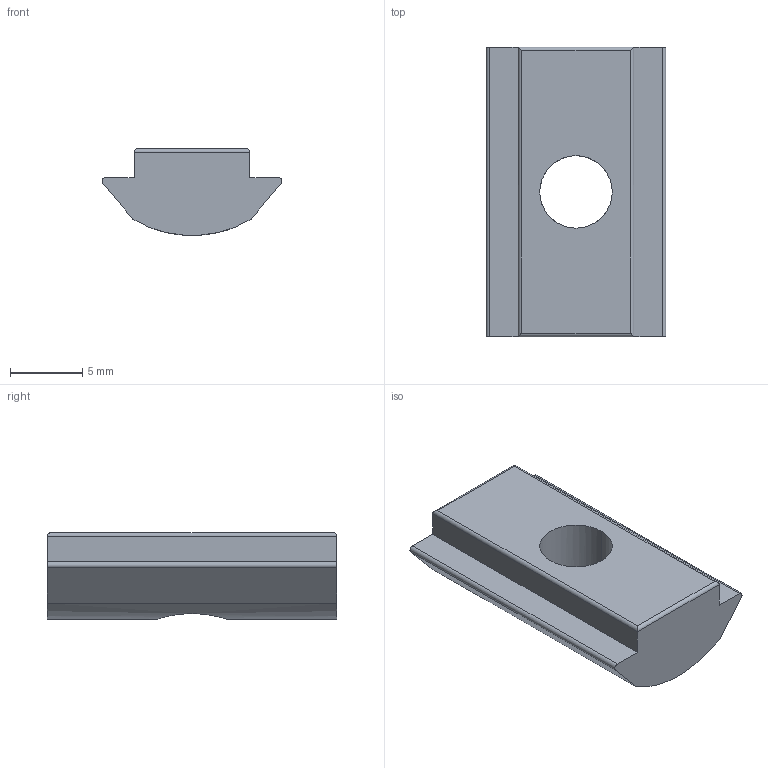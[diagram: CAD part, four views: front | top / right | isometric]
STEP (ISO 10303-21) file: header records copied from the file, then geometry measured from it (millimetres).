
FILE_DESCRIPTION (( 'STEP AP203' ), '1' );
FILE_NAME ('DBSF08M6.STEP', '2019-05-31T03:03:45', ( '' ), ( '' ), 'SwSTEP 2.0', 'SolidWorks 2012', '' );
FILE_SCHEMA (( 'CONFIG_CONTROL_DESIGN' ));
Length unit declared in the file: millimetre
Products named in the file (1): DBSF08M6
Bounding box: 12.43 x 20 x 6 mm (x, y, z)
Volume: 934.2 mm3; surface area: 792.2 mm2
Topology: 1 solids, 1 shells, 18 faces, 44 edges, 28 vertices
Faces by surface type: cylinder 9, plane 9
Entity records: 663 total; most frequent: CARTESIAN_POINT 165, ORIENTED_EDGE 88, DIRECTION 84, EDGE_CURVE 44, VECTOR 30, LINE 30, VERTEX_POINT 28, AXIS2_PLACEMENT_3D 27
